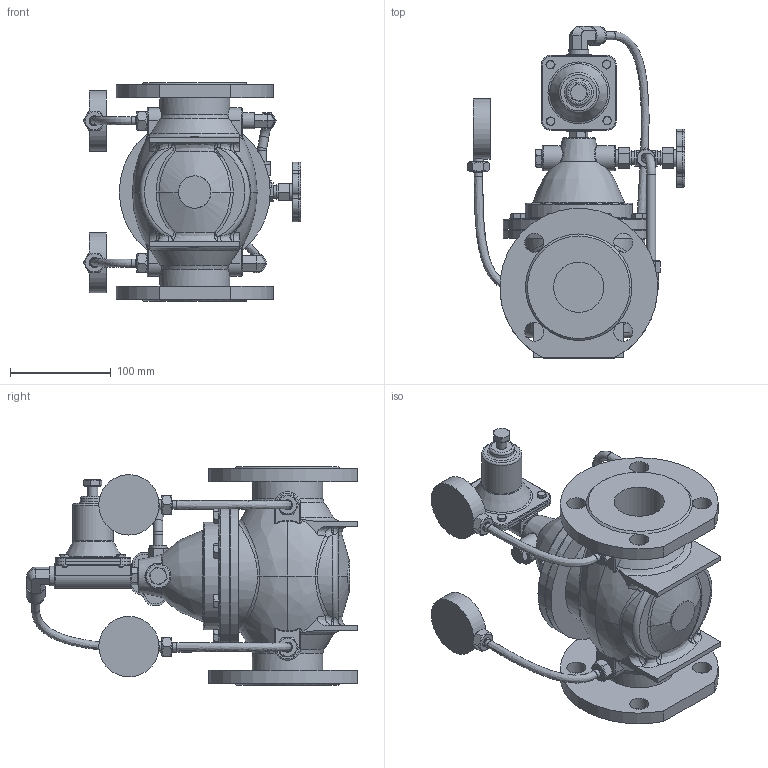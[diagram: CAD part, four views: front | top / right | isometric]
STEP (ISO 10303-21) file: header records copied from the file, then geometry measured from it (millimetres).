
FILE_DESCRIPTION(('STEP AP242'), '1');
FILE_NAME('PVA1-1313RR-F Ìåìáðàííûé ðåãóëÿòîð äàâëåíèÿ «ïîñëå ñåáÿ» ñ ïèëîòíûì óïðàâëåíèåì DN.ru Äó50 Ðó16', '', ('UNSPECIFIED'), ('UNSPECIFIED'), 'C3D Converter', 'C3D Toolkit', '');
FILE_SCHEMA(('AP242_MANAGED_MODEL_BASED_3D_ENGINEERING_MIM_LF { 1 0 10303 442 1 1 4 }'));
Length unit declared in the file: millimetre
Products named in the file (1): PVA1-1313RR-F
Bounding box: 216.17 x 330 x 217 mm (x, y, z)
Volume: 2821233.5 mm3; surface area: 346468 mm2
Topology: 1 solids, 4 shells, 1517 faces, 3682 edges, 2343 vertices
Faces by surface type: plane 855, bspline 241, cylinder 209, cone 136, torus 48, extrusion 28
Full cylindrical faces by diameter (mm): 2.03 x2, 3 x2, 5 x4, 6 x8, 8 x18, 9 x11, 9.525 x1, 10 x3, 10.363 x2, 12.573 x3, 12.954 x1, 13 x8, 14.254 x3, 14.287 x1, 16 x3, 16.016 x1, 16.192 x2, 16.967 x3, 19 x9, 19.05 x2, 19.885 x1, 23.884 x1, 25 x4, 32.233 x1, 40 x1, 50 x2, 56.933 x2, 57.199 x1, 60 x2, 70 x2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
Entity records: 107290 total; most frequent: CARTESIAN_POINT 68272, ORIENTED_EDGE 7024, DIRECTION 5902, EDGE_CURVE 3512, VERTEX_POINT 2334, AXIS2_PLACEMENT_3D 2027, EDGE_LOOP 1900, VECTOR 1848
